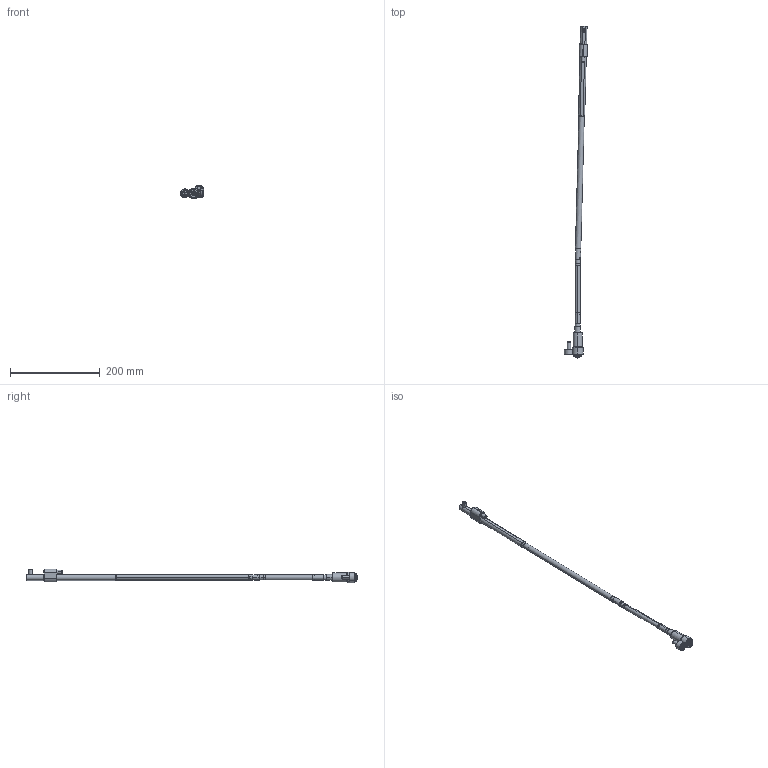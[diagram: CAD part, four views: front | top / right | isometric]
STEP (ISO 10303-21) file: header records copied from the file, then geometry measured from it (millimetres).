
FILE_DESCRIPTION (( 'STEP AP214' ), '1' );
FILE_NAME ('WL120100-INJ 1,5°.STEP', '2021-03-19T15:34:54', ( '' ), ( '' ), 'SwSTEP 2.0', 'SolidWorks 2019', '' );
FILE_SCHEMA (( 'AUTOMOTIVE_DESIGN' ));
Length unit declared in the file: millimetre
Products named in the file (17): Web-WL12-F01; 3IMAN5X3-150_con sellador; Web-WL12-A8; WL120100-B1; 1DIN912645_DIN 912 M6 x 45 --- 45C; WL120100-E; Web-WL12-A2; 8WL12EJEP; 9DR2808-TOR; Web-WL12-A3; WL120100-D; WL120100-B; WL120100-INJ 1,5°; 1DIN912820_DIN 912 M8 x 20 --- 20C; Web-WL12-F00.SLDPRT; Web-WL12-XX_OFF-WL120100-1,5; Web-WL12-A1
Assembly tree (16 placements, depth 3):
  WL120100-INJ 1,5°
    Web-WL12-A8
    Web-WL12-XX_OFF-WL120100-1,5
    Web-WL12-A3
    Web-WL12-A2
    Web-WL12-A1
    Web-WL12-F00.SLDPRT
      Web-WL12-F01
      1DIN912820_DIN 912 M8 x 20 --- 20C
      1DIN912645_DIN 912 M6 x 45 --- 45C
    WL120100-D
    8WL12EJEP
    WL120100-E
    9DR2808-TOR
    WL120100-B
      WL120100-B1
      3IMAN5X3-150_con sellador
Bounding box: 51.19 x 738 x 29.9 mm (x, y, z)
Volume: 113342.2 mm3; surface area: 49842.5 mm2
Topology: 15 solids, 15 shells, 432 faces, 906 edges, 525 vertices
Faces by surface type: plane 139, cylinder 123, cone 120, torus 50
Entity records: 13661 total; most frequent: DIRECTION 2240, CARTESIAN_POINT 2104, ORIENTED_EDGE 1788, AXIS2_PLACEMENT_3D 929, EDGE_CURVE 894, VERTEX_POINT 525, EDGE_LOOP 477, CIRCLE 476
